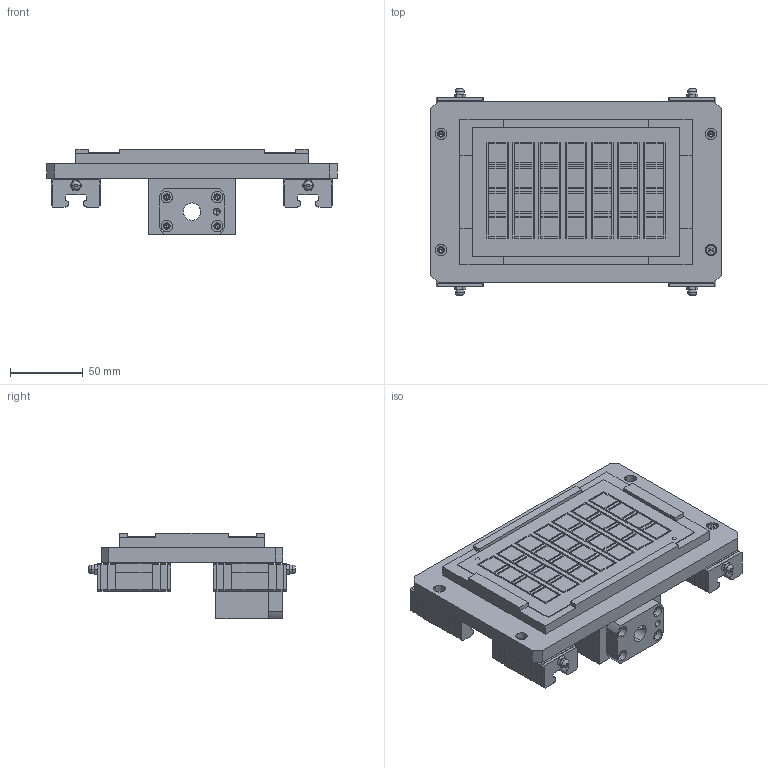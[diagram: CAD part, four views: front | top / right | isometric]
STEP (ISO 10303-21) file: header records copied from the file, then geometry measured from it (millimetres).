
FILE_DESCRIPTION (( 'STEP AP214' ), '1' );
FILE_NAME ('No000031_Y.STEP', '2020-07-20T10:27:43', ( '' ), ( '' ), 'SwSTEP 2.0', 'SolidWorks 2017', '' );
FILE_SCHEMA (( 'AUTOMOTIVE_DESIGN' ));
Length unit declared in the file: millimetre
Products named in the file (15): 0031_Work-B; _0031_SA02; 0031_015_BSS1205-450; NAT-4_BSS1205-450; 0031_305_SCB5-10; 0031_012_SV2R-MX24-520-WC; 0031_308_SCB4-15; 0031_Work-A; _0031_SA03; 0031_205_Plate; No000031_Y; 0031_019_MS4-10; 0031_309_SCB4-10; 0031_016_BNFA1205S-23; BLOCK_0031_012_SV2R-MX24-520-WC
Assembly tree (24 placements, depth 4):
  No000031_Y
    _0031_SA02
      0031_012_SV2R-MX24-520-WC  x2
        BLOCK_0031_012_SV2R-MX24-520-WC
      0031_015_BSS1205-450
        NAT-4_BSS1205-450
      0031_016_BNFA1205S-23
      0031_019_MS4-10  x2
      0031_205_Plate
      0031_305_SCB5-10  x4
      0031_308_SCB4-15  x4
      0031_309_SCB4-10  x2
    _0031_SA03
      0031_Work-A
      0031_Work-B
Bounding box: 200 x 142.6 x 59 mm (x, y, z)
Volume: 565336.9 mm3; surface area: 179059.4 mm2
Topology: 21 solids, 21 shells, 1387 faces, 3750 edges, 2412 vertices
Faces by surface type: plane 1013, cylinder 204, cone 154, torus 8, sphere 8
Entity records: 24133 total; most frequent: CARTESIAN_POINT 4273, ORIENTED_EDGE 3950, DIRECTION 3791, EDGE_CURVE 1975, LINE 1607, VECTOR 1607, VERTEX_POINT 1298, AXIS2_PLACEMENT_3D 1092
